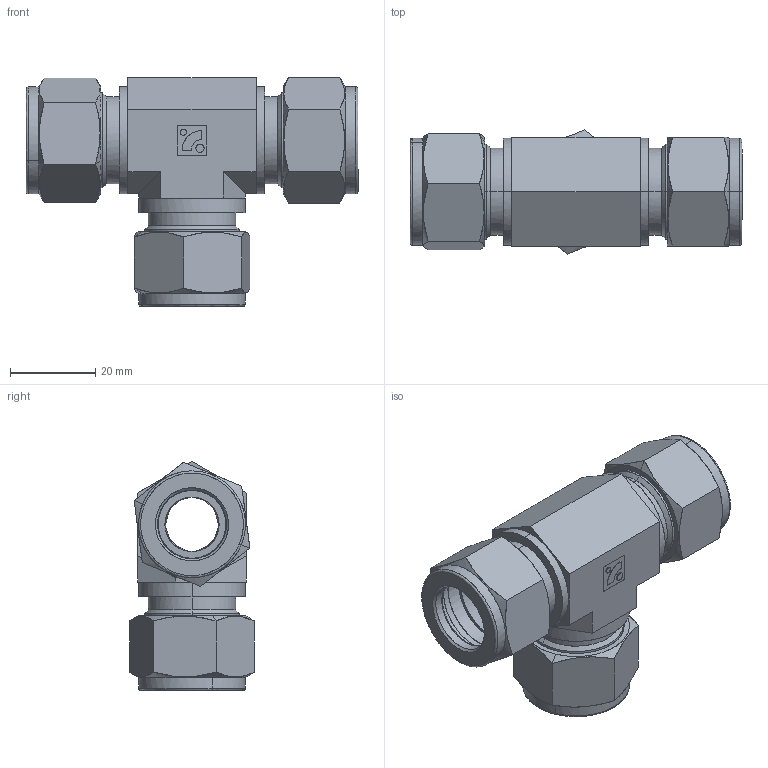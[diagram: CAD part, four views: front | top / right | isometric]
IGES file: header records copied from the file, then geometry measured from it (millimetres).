
Start section: Comment
Global section: file name: SUT-10.igs; native system:  By UGS Corp.; preprocessor: XPlus GENERIC/IGES 3.0; author: Author; organization: Title; date: 20100114.113929; units: millimetre
Bounding box: 77.68 x 29.08 x 53.5 mm (x, y, z)
Surface area: 19651.4 mm2 (no closed solid volume)
Topology: 0 solids, 0 shells, 214 faces, 924 edges, 922 vertices
Faces by surface type: bspline 214
